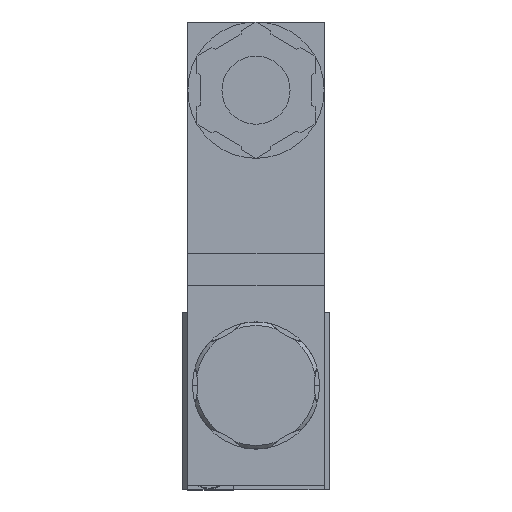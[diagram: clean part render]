
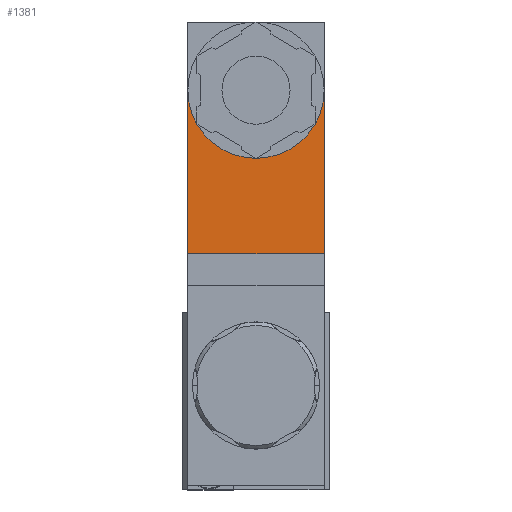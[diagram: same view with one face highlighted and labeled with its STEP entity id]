
A CAD part, front view. The second image highlights one B-rep face of the part: STEP entity #1381.
In plain terms, the highlighted planar face has unit normal (0, -1, 0) as drawn and (-1, 0, 0) by its records, which use the part's own axes.
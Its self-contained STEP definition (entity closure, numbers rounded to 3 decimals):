
#1381=ADVANCED_FACE('3:198628',(#3415),#3416,.T.);
#3415=FACE_OUTER_BOUND('',#6246,.T.);
#3416=PLANE('',#6247);
#6246=EDGE_LOOP('',(#10264,#10265,#10266,#10267));
#6247=AXIS2_PLACEMENT_3D('',#10268,#10269,#10270);
#10264=ORIENTED_EDGE('',*,*,#18106,.F.);
#10265=ORIENTED_EDGE('',*,*,#18050,.F.);
#10266=ORIENTED_EDGE('',*,*,#18107,.T.);
#10267=ORIENTED_EDGE('',*,*,#18108,.F.);
#10268=CARTESIAN_POINT('',(-84.8,65.8,-59.68));
#10269=DIRECTION('',(-1.0,0.,0.));
#10270=DIRECTION('',(0.,1.0,0.));
#18050=EDGE_CURVE('3:198868',#21446,#21456,#21507,.T.);
#18106=EDGE_CURVE('3:199015',#21456,#21597,#21598,.T.);
#18107=EDGE_CURVE('3:199018',#21446,#21599,#21600,.T.);
#18108=EDGE_CURVE('3:199021',#21597,#21599,#21601,.T.);
#21446=VERTEX_POINT('NONE',#26439);
#21456=VERTEX_POINT('NONE',#26450);
#21507=CIRCLE('',#26510,7.5);
#21597=VERTEX_POINT('NONE',#26659);
#21598=LINE('',#26660,#26661);
#21599=VERTEX_POINT('NONE',#26662);
#21600=LINE('',#26663,#26664);
#21601=LINE('',#26665,#26666);
#26439=CARTESIAN_POINT('',(-84.8,58.3,-67.18));
#26450=CARTESIAN_POINT('',(-84.8,58.3,-52.18));
#26510=AXIS2_PLACEMENT_3D('',#41587,#41588,#41589);
#26659=CARTESIAN_POINT('',(-84.8,40.3,-52.18));
#26660=CARTESIAN_POINT('',(-84.8,65.8,-52.18));
#26661=VECTOR('',#41639,1.0);
#26662=CARTESIAN_POINT('',(-84.8,40.3,-67.18));
#26663=CARTESIAN_POINT('',(-84.8,65.8,-67.18));
#26664=VECTOR('',#41640,1.0);
#26665=CARTESIAN_POINT('',(-84.8,40.3,-59.68));
#26666=VECTOR('',#41641,1.0);
#41587=CARTESIAN_POINT('',(-84.8,58.3,-59.68));
#41588=DIRECTION('',(-1.0,0.,0.));
#41589=DIRECTION('',(0.,0.,1.0));
#41639=DIRECTION('',(0.,-1.0,0.));
#41640=DIRECTION('',(0.,-1.0,0.));
#41641=DIRECTION('',(0.,0.,-1.0));
